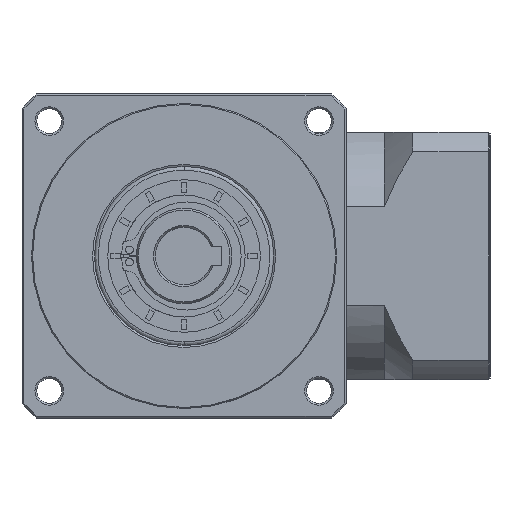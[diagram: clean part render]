
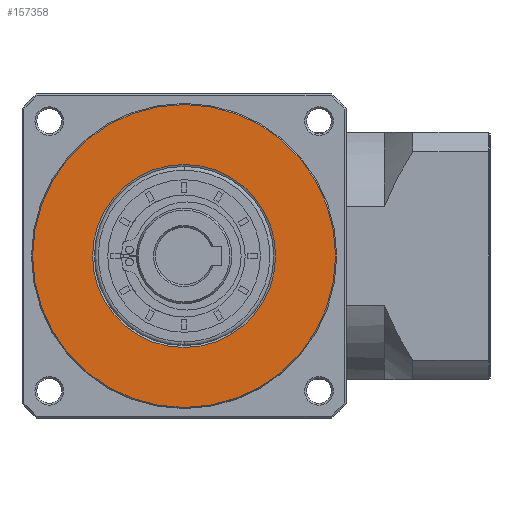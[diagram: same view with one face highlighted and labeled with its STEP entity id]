
A CAD part, left-side view. The second image highlights one B-rep face of the part: STEP entity #157358.
In plain terms, the highlighted planar face has unit normal (-1, 0, 0).
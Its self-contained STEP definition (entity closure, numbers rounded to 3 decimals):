
#2695 = DIRECTION ( 'NONE',  ( 0., 1., 0. ) ) ;
#3940 = VERTEX_POINT ( 'NONE', #141948 ) ;
#7664 = CARTESIAN_POINT ( 'NONE',  ( -156.602, -59.286, -107.407 ) ) ;
#9628 = DIRECTION ( 'NONE',  ( 0., 1., 0. ) ) ;
#10946 = EDGE_CURVE ( 'NONE', #3940, #130854, #43445, .T. ) ;
#18209 = EDGE_CURVE ( 'NONE', #130854, #3940, #161613, .T. ) ;
#20753 = CARTESIAN_POINT ( 'NONE',  ( -156.602, -19.575, -83.407 ) ) ;
#33527 = DIRECTION ( 'NONE',  ( 1., 0., 0. ) ) ;
#43269 = DIRECTION ( 'NONE',  ( -1., 0., 0. ) ) ;
#43445 = CIRCLE ( 'NONE', #46584, 39.711 ) ;
#46584 = AXIS2_PLACEMENT_3D ( 'NONE', #168860, #89288, #9628 ) ;
#47636 = CARTESIAN_POINT ( 'NONE',  ( -156.602, -19.575, -107.407 ) ) ;
#59534 = EDGE_CURVE ( 'NONE', #160568, #144497, #63490, .T. ) ;
#60951 = ORIENTED_EDGE ( 'NONE', *, *, #59534, .T. ) ;
#61038 = DIRECTION ( 'NONE',  ( 0., 0., -1. ) ) ;
#63043 = EDGE_LOOP ( 'NONE', ( #124726, #158634 ) ) ;
#63490 = CIRCLE ( 'NONE', #85671, 24. ) ;
#67449 = FACE_BOUND ( 'NONE', #156580, .T. ) ;
#69387 = PLANE ( 'NONE',  #149783 ) ;
#74535 = AXIS2_PLACEMENT_3D ( 'NONE', #47636, #140634, #61038 ) ;
#79525 = CARTESIAN_POINT ( 'NONE',  ( -156.602, -19.575, -131.407 ) ) ;
#82375 = DIRECTION ( 'NONE',  ( 1., 0., 0. ) ) ;
#85671 = AXIS2_PLACEMENT_3D ( 'NONE', #113121, #33527, #126566 ) ;
#89288 = DIRECTION ( 'NONE',  ( 1., 0., 0. ) ) ;
#90402 = ORIENTED_EDGE ( 'NONE', *, *, #162961, .T. ) ;
#104036 = CIRCLE ( 'NONE', #74535, 24. ) ;
#113121 = CARTESIAN_POINT ( 'NONE',  ( -156.602, -19.575, -107.407 ) ) ;
#122858 = CARTESIAN_POINT ( 'NONE',  ( -156.602, -19.575, -107.407 ) ) ;
#124726 = ORIENTED_EDGE ( 'NONE', *, *, #10946, .F. ) ;
#126566 = DIRECTION ( 'NONE',  ( 0., 0., -1. ) ) ;
#130854 = VERTEX_POINT ( 'NONE', #7664 ) ;
#136220 = DIRECTION ( 'NONE',  ( 0., 0., -1. ) ) ;
#140634 = DIRECTION ( 'NONE',  ( 1., 0., 0. ) ) ;
#141948 = CARTESIAN_POINT ( 'NONE',  ( -156.602, 20.136, -107.407 ) ) ;
#144497 = VERTEX_POINT ( 'NONE', #79525 ) ;
#149783 = AXIS2_PLACEMENT_3D ( 'NONE', #122858, #43269, #136220 ) ;
#156580 = EDGE_LOOP ( 'NONE', ( #90402, #60951 ) ) ;
#157358 = ADVANCED_FACE ( 'NONE', ( #169363, #67449 ), #69387, .T. ) ;
#158634 = ORIENTED_EDGE ( 'NONE', *, *, #18209, .F. ) ;
#160568 = VERTEX_POINT ( 'NONE', #20753 ) ;
#161613 = CIRCLE ( 'NONE', #167301, 39.711 ) ;
#161956 = CARTESIAN_POINT ( 'NONE',  ( -156.602, -19.575, -107.407 ) ) ;
#162961 = EDGE_CURVE ( 'NONE', #144497, #160568, #104036, .T. ) ;
#167301 = AXIS2_PLACEMENT_3D ( 'NONE', #161956, #82375, #2695 ) ;
#168860 = CARTESIAN_POINT ( 'NONE',  ( -156.602, -19.575, -107.407 ) ) ;
#169363 = FACE_OUTER_BOUND ( 'NONE', #63043, .T. ) ;
